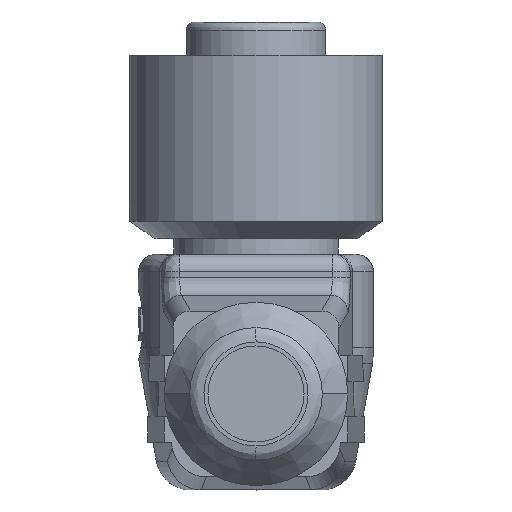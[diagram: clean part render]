
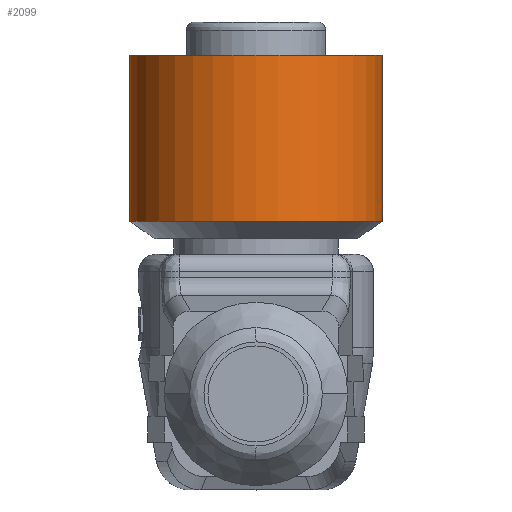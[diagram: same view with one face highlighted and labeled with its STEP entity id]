
A CAD part, front view. The second image highlights one B-rep face of the part: STEP entity #2099.
In plain terms, the highlighted cylindrical face has radius 7.25 mm (diameter 14.5 mm), a partial arc.
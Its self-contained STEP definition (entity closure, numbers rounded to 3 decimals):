
#78 = CARTESIAN_POINT ( 'NONE',  ( 90.495, 84.797, 1.9 ) ) ;
#81 = FACE_OUTER_BOUND ( 'NONE', #4111, .T. ) ;
#211 = EDGE_CURVE ( 'NONE', #6395, #6471, #4305, .T. ) ;
#699 = CARTESIAN_POINT ( 'NONE',  ( 75.995, 84.797, 1.9 ) ) ;
#742 = EDGE_CURVE ( 'NONE', #3873, #6395, #6353, .T. ) ;
#827 = DIRECTION ( 'NONE',  ( 0., 0., -1. ) ) ;
#1273 = AXIS2_PLACEMENT_3D ( 'NONE', #1534, #3146, #5753 ) ;
#1534 = CARTESIAN_POINT ( 'NONE',  ( 83.245, 84.797, 6.65 ) ) ;
#1760 = VERTEX_POINT ( 'NONE', #5573 ) ;
#2092 = DIRECTION ( 'NONE',  ( 0., 0., -1. ) ) ;
#2099 = ADVANCED_FACE ( 'NONE', ( #81 ), #5167, .T. ) ;
#2152 = DIRECTION ( 'NONE',  ( 0., 0., -1. ) ) ;
#2214 = LINE ( 'NONE', #6069, #4870 ) ;
#2365 = CARTESIAN_POINT ( 'NONE',  ( 90.495, 84.797, 11.4 ) ) ;
#2477 = ORIENTED_EDGE ( 'NONE', *, *, #3442, .T. ) ;
#3146 = DIRECTION ( 'NONE',  ( 0., 0., -1. ) ) ;
#3384 = VECTOR ( 'NONE', #4214, 1000. ) ;
#3442 = EDGE_CURVE ( 'NONE', #1760, #6471, #2214, .T. ) ;
#3651 = CARTESIAN_POINT ( 'NONE',  ( 83.245, 84.797, 1.9 ) ) ;
#3691 = AXIS2_PLACEMENT_3D ( 'NONE', #3651, #2092, #5185 ) ;
#3873 = VERTEX_POINT ( 'NONE', #2365 ) ;
#4111 = EDGE_LOOP ( 'NONE', ( #5155, #5295, #2477, #6363 ) ) ;
#4214 = DIRECTION ( 'NONE',  ( 0., 0., -1. ) ) ;
#4305 = CIRCLE ( 'NONE', #3691, 7.25 ) ;
#4565 = AXIS2_PLACEMENT_3D ( 'NONE', #5306, #2152, #5852 ) ;
#4870 = VECTOR ( 'NONE', #827, 1000. ) ;
#4907 = EDGE_CURVE ( 'NONE', #3873, #1760, #6084, .T. ) ;
#5155 = ORIENTED_EDGE ( 'NONE', *, *, #742, .F. ) ;
#5167 = CYLINDRICAL_SURFACE ( 'NONE', #1273, 7.25 ) ;
#5185 = DIRECTION ( 'NONE',  ( 0., 1., 0. ) ) ;
#5295 = ORIENTED_EDGE ( 'NONE', *, *, #4907, .T. ) ;
#5306 = CARTESIAN_POINT ( 'NONE',  ( 83.245, 84.797, 11.4 ) ) ;
#5573 = CARTESIAN_POINT ( 'NONE',  ( 75.995, 84.797, 11.4 ) ) ;
#5753 = DIRECTION ( 'NONE',  ( -1., 0., 0. ) ) ;
#5852 = DIRECTION ( 'NONE',  ( -1., 0., 0. ) ) ;
#6069 = CARTESIAN_POINT ( 'NONE',  ( 75.995, 84.797, 6.65 ) ) ;
#6084 = CIRCLE ( 'NONE', #4565, 7.25 ) ;
#6302 = CARTESIAN_POINT ( 'NONE',  ( 90.495, 84.797, 6.65 ) ) ;
#6353 = LINE ( 'NONE', #6302, #3384 ) ;
#6363 = ORIENTED_EDGE ( 'NONE', *, *, #211, .F. ) ;
#6395 = VERTEX_POINT ( 'NONE', #78 ) ;
#6471 = VERTEX_POINT ( 'NONE', #699 ) ;
